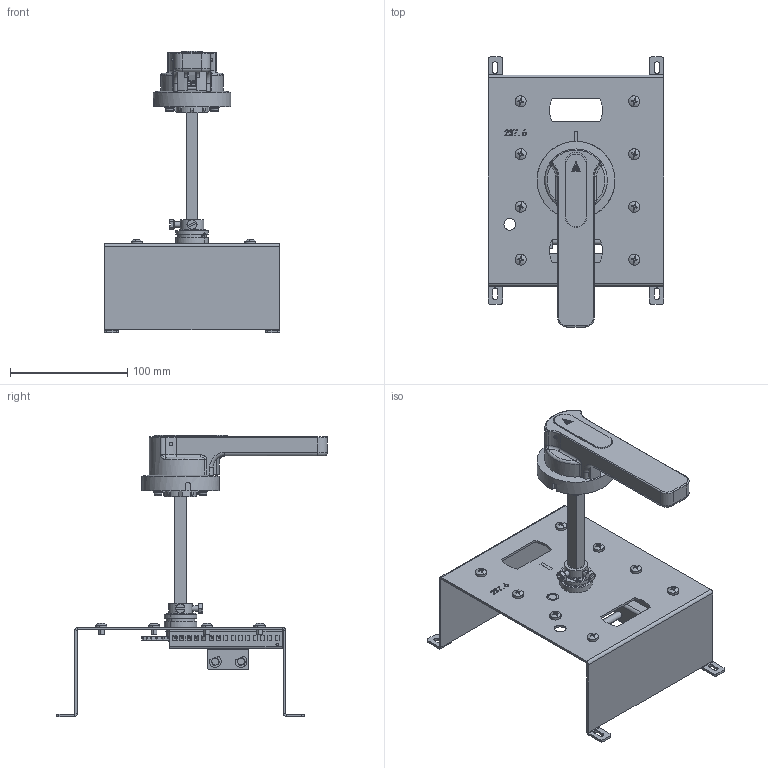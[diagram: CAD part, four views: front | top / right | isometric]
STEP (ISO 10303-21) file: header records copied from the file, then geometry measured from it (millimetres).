
FILE_DESCRIPTION(/* description */ (''),/* implementation_level */ '2;1');
FILE_NAME(/* name */ '_model1.stp',/* time_stamp */ '2025-09-24T10:08:09+08:00',/* author */ (''),/* organization */ (''),/* preprocessor_version */ 'ST-DEVELOPER v16',/* originating_system */ 'SIEMENS PLM Software NX 10.0',/* authorisation */ '');
FILE_SCHEMA (('AUTOMOTIVE_DESIGN { 1 0 10303 214 3 1 1 1 }'));
Products named in the file (1): midi514C04092fs7
Bounding box: 150 x 230.95 x 239.9 mm (x, y, z)
Volume: 145469.9 mm3; surface area: 190840.7 mm2
Topology: 23 solids, 24 shells, 1684 faces, 4467 edges, 2813 vertices
Faces by surface type: plane 871, cylinder 468, bspline 241, cone 63, torus 25, sphere 16
Full cylindrical faces by diameter (mm): 2.7 x2, 3 x3, 3.5 x8, 3.8 x3, 4 x5, 4.18 x2, 4.4 x2, 4.542 x1, 8 x2, 23.5 x1, 66.5 x1
Entity records: 80904 total; most frequent: CARTESIAN_POINT 40762, ORIENTED_EDGE 8590, DIRECTION 7703, EDGE_CURVE 4295, VERTEX_POINT 2777, AXIS2_PLACEMENT_3D 2612, LINE 2479, VECTOR 2479
